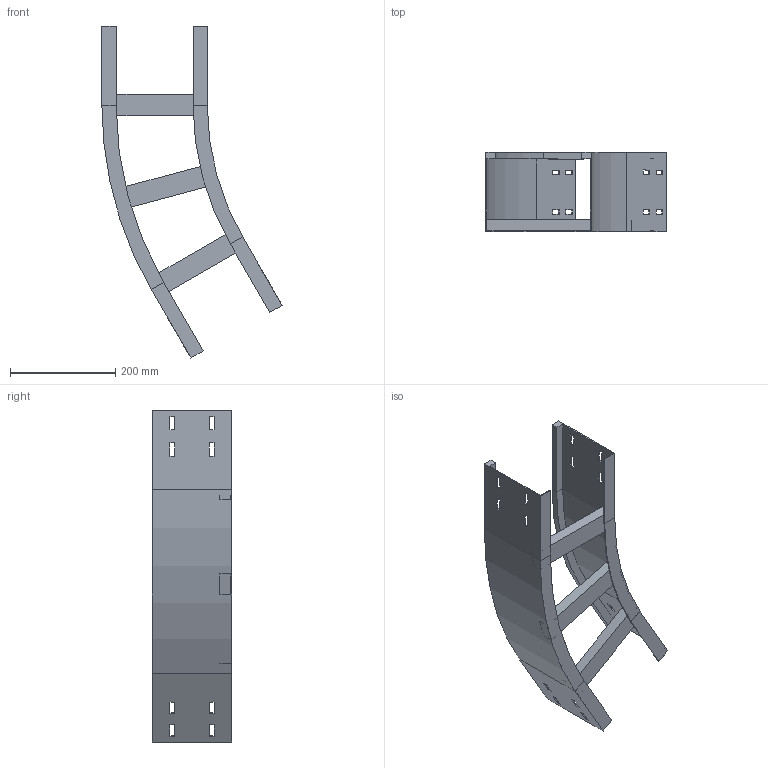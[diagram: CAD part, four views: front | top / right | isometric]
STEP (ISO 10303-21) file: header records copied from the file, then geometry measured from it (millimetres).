
FILE_DESCRIPTION (( 'STEP AP214' ), '1' );
FILE_NAME ('12J5F200.step', '2025-02-21T16:23:30', ( '' ), ( '' ), 'SwSTEP 2.0', 'SolidWorks 2023', '' );
FILE_SCHEMA (( 'AUTOMOTIVE_DESIGN' ));
Length unit declared in the file: millimetre
Products named in the file (4): LONGH.INTERNO 30°_H150_R500; LONGH.ESTERNO 30°_H150_R500+200; TRAVERSINO_200; 12J5F200
Assembly tree (5 placements, depth 2):
  12J5F200
    LONGH.INTERNO 30°_H150_R500
    LONGH.ESTERNO 30°_H150_R500+200
    TRAVERSINO_200  x3
Bounding box: 341.99 x 150 x 629.9 mm (x, y, z)
Volume: 1134828.6 mm3; surface area: 547283 mm2
Topology: 5 solids, 5 shells, 134 faces, 340 edges, 216 vertices
Faces by surface type: plane 126, cylinder 8
Entity records: 3821 total; most frequent: CARTESIAN_POINT 646, ORIENTED_EDGE 632, DIRECTION 592, EDGE_CURVE 316, VECTOR 300, LINE 300, VERTEX_POINT 200, EDGE_LOOP 154
